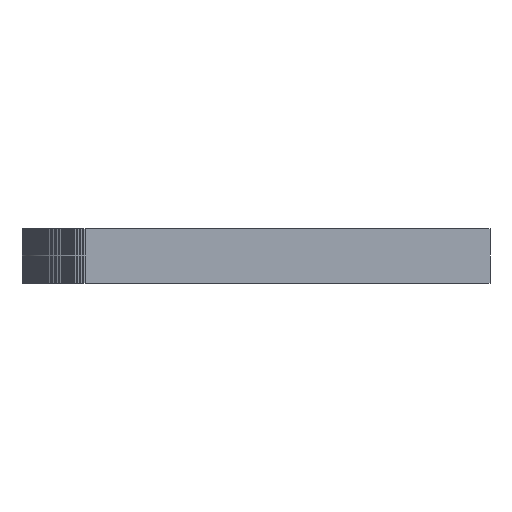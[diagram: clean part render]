
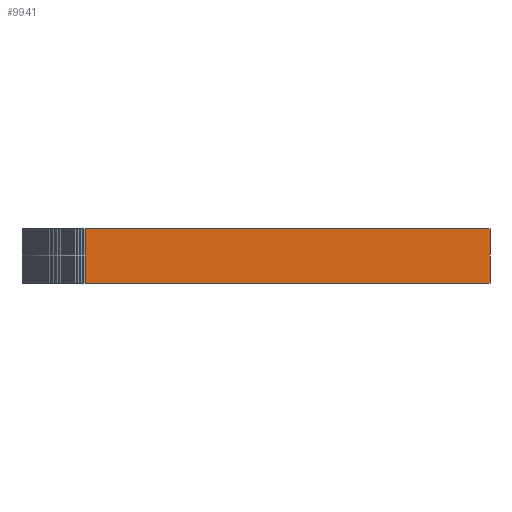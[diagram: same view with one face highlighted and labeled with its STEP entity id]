
A CAD part, front view. The second image highlights one B-rep face of the part: STEP entity #9941.
In plain terms, the highlighted planar face has unit normal (0, -1, 0).
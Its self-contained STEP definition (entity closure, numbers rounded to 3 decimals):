
#72 = PLANE('',#73);
#73 = AXIS2_PLACEMENT_3D('',#74,#75,#76);
#74 = CARTESIAN_POINT('',(6.192,3.398,32.));
#75 = DIRECTION('',(-0.,-0.,-1.));
#76 = DIRECTION('',(-1.,0.,0.));
#126 = PLANE('',#127);
#127 = AXIS2_PLACEMENT_3D('',#128,#129,#130);
#128 = CARTESIAN_POINT('',(6.192,3.398,29.4));
#129 = DIRECTION('',(-0.,-0.,-1.));
#130 = DIRECTION('',(-1.,0.,0.));
#9833 = PLANE('',#9834);
#9834 = AXIS2_PLACEMENT_3D('',#9835,#9836,#9837);
#9835 = CARTESIAN_POINT('',(19.9,2.115,29.4));
#9836 = DIRECTION('',(1.,0.,-0.));
#9837 = DIRECTION('',(0.,-1.,0.));
#9871 = VERTEX_POINT('',#9872);
#9872 = CARTESIAN_POINT('',(19.9,1.815,32.));
#9893 = EDGE_CURVE('',#9894,#9871,#9896,.T.);
#9894 = VERTEX_POINT('',#9895);
#9895 = CARTESIAN_POINT('',(19.9,1.815,29.4));
#9896 = SURFACE_CURVE('',#9897,(#9901,#9908),.PCURVE_S1.);
#9897 = LINE('',#9898,#9899);
#9898 = CARTESIAN_POINT('',(19.9,1.815,29.4));
#9899 = VECTOR('',#9900,1.);
#9900 = DIRECTION('',(0.,0.,1.));
#9901 = PCURVE('',#9833,#9902);
#9902 = DEFINITIONAL_REPRESENTATION('',(#9903),#9907);
#9903 = LINE('',#9904,#9905);
#9904 = CARTESIAN_POINT('',(0.3,0.));
#9905 = VECTOR('',#9906,1.);
#9906 = DIRECTION('',(0.,-1.));
#9907 = ( GEOMETRIC_REPRESENTATION_CONTEXT(2) 
PARAMETRIC_REPRESENTATION_CONTEXT() REPRESENTATION_CONTEXT('2D SPACE',''
  ) );
#9908 = PCURVE('',#9909,#9914);
#9909 = PLANE('',#9910);
#9910 = AXIS2_PLACEMENT_3D('',#9911,#9912,#9913);
#9911 = CARTESIAN_POINT('',(19.9,1.815,29.4));
#9912 = DIRECTION('',(0.,-1.,0.));
#9913 = DIRECTION('',(-1.,0.,0.));
#9914 = DEFINITIONAL_REPRESENTATION('',(#9915),#9919);
#9915 = LINE('',#9916,#9917);
#9916 = CARTESIAN_POINT('',(0.,-0.));
#9917 = VECTOR('',#9918,1.);
#9918 = DIRECTION('',(0.,-1.));
#9919 = ( GEOMETRIC_REPRESENTATION_CONTEXT(2) 
PARAMETRIC_REPRESENTATION_CONTEXT() REPRESENTATION_CONTEXT('2D SPACE',''
  ) );
#9941 = ADVANCED_FACE('',(#9942),#9909,.T.);
#9942 = FACE_BOUND('',#9943,.T.);
#9943 = EDGE_LOOP('',(#9944,#9945,#9968,#9996));
#9944 = ORIENTED_EDGE('',*,*,#9893,.T.);
#9945 = ORIENTED_EDGE('',*,*,#9946,.T.);
#9946 = EDGE_CURVE('',#9871,#9947,#9949,.T.);
#9947 = VERTEX_POINT('',#9948);
#9948 = CARTESIAN_POINT('',(0.6,1.815,32.));
#9949 = SURFACE_CURVE('',#9950,(#9954,#9961),.PCURVE_S1.);
#9950 = LINE('',#9951,#9952);
#9951 = CARTESIAN_POINT('',(19.9,1.815,32.));
#9952 = VECTOR('',#9953,1.);
#9953 = DIRECTION('',(-1.,0.,0.));
#9954 = PCURVE('',#9909,#9955);
#9955 = DEFINITIONAL_REPRESENTATION('',(#9956),#9960);
#9956 = LINE('',#9957,#9958);
#9957 = CARTESIAN_POINT('',(0.,-2.6));
#9958 = VECTOR('',#9959,1.);
#9959 = DIRECTION('',(1.,0.));
#9960 = ( GEOMETRIC_REPRESENTATION_CONTEXT(2) 
PARAMETRIC_REPRESENTATION_CONTEXT() REPRESENTATION_CONTEXT('2D SPACE',''
  ) );
#9961 = PCURVE('',#72,#9962);
#9962 = DEFINITIONAL_REPRESENTATION('',(#9963),#9967);
#9963 = LINE('',#9964,#9965);
#9964 = CARTESIAN_POINT('',(-13.708,-1.583));
#9965 = VECTOR('',#9966,1.);
#9966 = DIRECTION('',(1.,0.));
#9967 = ( GEOMETRIC_REPRESENTATION_CONTEXT(2) 
PARAMETRIC_REPRESENTATION_CONTEXT() REPRESENTATION_CONTEXT('2D SPACE',''
  ) );
#9968 = ORIENTED_EDGE('',*,*,#9969,.F.);
#9969 = EDGE_CURVE('',#9970,#9947,#9972,.T.);
#9970 = VERTEX_POINT('',#9971);
#9971 = CARTESIAN_POINT('',(0.6,1.815,29.4));
#9972 = SURFACE_CURVE('',#9973,(#9977,#9984),.PCURVE_S1.);
#9973 = LINE('',#9974,#9975);
#9974 = CARTESIAN_POINT('',(0.6,1.815,29.4));
#9975 = VECTOR('',#9976,1.);
#9976 = DIRECTION('',(0.,0.,1.));
#9977 = PCURVE('',#9909,#9978);
#9978 = DEFINITIONAL_REPRESENTATION('',(#9979),#9983);
#9979 = LINE('',#9980,#9981);
#9980 = CARTESIAN_POINT('',(19.3,0.));
#9981 = VECTOR('',#9982,1.);
#9982 = DIRECTION('',(0.,-1.));
#9983 = ( GEOMETRIC_REPRESENTATION_CONTEXT(2) 
PARAMETRIC_REPRESENTATION_CONTEXT() REPRESENTATION_CONTEXT('2D SPACE',''
  ) );
#9984 = PCURVE('',#9985,#9990);
#9985 = PLANE('',#9986);
#9986 = AXIS2_PLACEMENT_3D('',#9987,#9988,#9989);
#9987 = CARTESIAN_POINT('',(0.6,1.815,29.4));
#9988 = DIRECTION('',(-0.006,-1.,0.));
#9989 = DIRECTION('',(-1.,0.006,0.));
#9990 = DEFINITIONAL_REPRESENTATION('',(#9991),#9995);
#9991 = LINE('',#9992,#9993);
#9992 = CARTESIAN_POINT('',(0.,0.));
#9993 = VECTOR('',#9994,1.);
#9994 = DIRECTION('',(0.,-1.));
#9995 = ( GEOMETRIC_REPRESENTATION_CONTEXT(2) 
PARAMETRIC_REPRESENTATION_CONTEXT() REPRESENTATION_CONTEXT('2D SPACE',''
  ) );
#9996 = ORIENTED_EDGE('',*,*,#9997,.T.);
#9997 = EDGE_CURVE('',#9970,#9894,#9998,.T.);
#9998 = SURFACE_CURVE('',#9999,(#10003,#10010),.PCURVE_S1.);
#9999 = LINE('',#10000,#10001);
#10000 = CARTESIAN_POINT('',(0.6,1.815,29.4));
#10001 = VECTOR('',#10002,1.);
#10002 = DIRECTION('',(1.,0.,0.));
#10003 = PCURVE('',#9909,#10004);
#10004 = DEFINITIONAL_REPRESENTATION('',(#10005),#10009);
#10005 = LINE('',#10006,#10007);
#10006 = CARTESIAN_POINT('',(19.3,0.));
#10007 = VECTOR('',#10008,1.);
#10008 = DIRECTION('',(-1.,-0.));
#10009 = ( GEOMETRIC_REPRESENTATION_CONTEXT(2) 
PARAMETRIC_REPRESENTATION_CONTEXT() REPRESENTATION_CONTEXT('2D SPACE',''
  ) );
#10010 = PCURVE('',#126,#10011);
#10011 = DEFINITIONAL_REPRESENTATION('',(#10012),#10016);
#10012 = LINE('',#10013,#10014);
#10013 = CARTESIAN_POINT('',(5.592,-1.583));
#10014 = VECTOR('',#10015,1.);
#10015 = DIRECTION('',(-1.,0.));
#10016 = ( GEOMETRIC_REPRESENTATION_CONTEXT(2) 
PARAMETRIC_REPRESENTATION_CONTEXT() REPRESENTATION_CONTEXT('2D SPACE',''
  ) );
